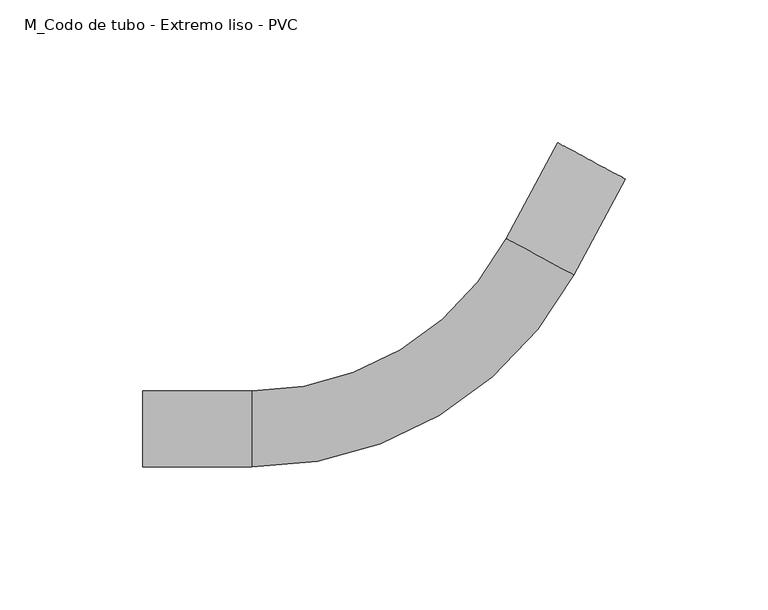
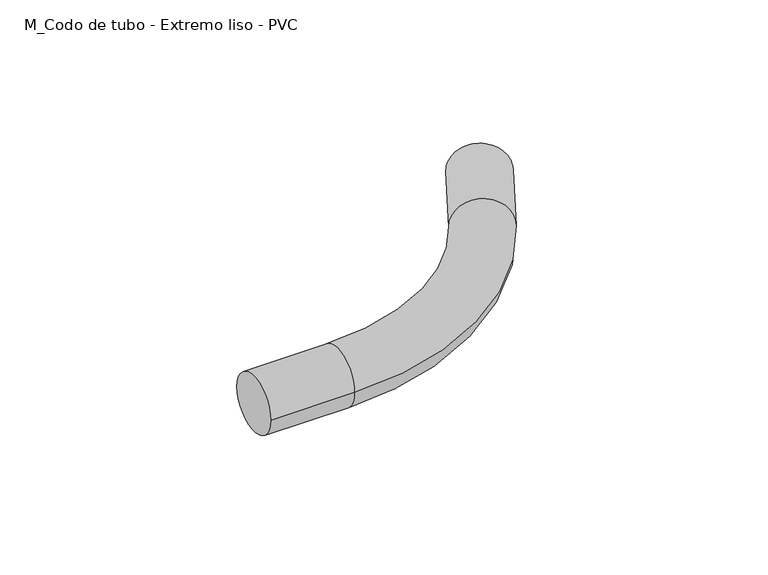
"""IFC4 building model written with IfcOpenShell, lengths in millimetres: cable carrier fitting geometry, M_Codo de tubo - Extremo liso - PVC : CODO ILUMINACION."""

from ifc_helpers import new_model, si_unit, point, frame, origin, place, context, project, spatial, circle_curve, ellipse_curve, trimmed, source, transform, mapped, element, save
from ifc_brep_helpers import plane_surface, cylinder_surface, revolved_surface, advanced_brep


def m_codo_de_tubo_extremo_liso_pvc_4da0fa4a(model_context):
    return source(origin(), model_context, "Body", "AdvancedBrep", [
        advanced_brep(
        [(-106.4955185, -13.335, 0.0), (-106.4955185, 13.335, 0.0), (-68.3955185, -13.335, 0.0), (-68.3955185, 13.335, 0.0), (20.5781406, 66.5755909, 0.0), (44.0806165, 53.9691432, 0.0), (62.0898275, 87.5441089, 0.0), (38.5873515, 100.1505566, 0.0)],
        [
            (0, 1, circle_curve(frame((-106.4955185, 0.0, 0.0), z_axis=(-1.0, 0.0, 0.0), x_axis=(0.0, 1.0, 0.0)), 13.335)),
            (1, 0, circle_curve(frame((-106.4955185, 0.0, 0.0), z_axis=(-1.0, 0.0, 0.0), x_axis=(0.0, 1.0, 0.0)), 13.335)),
            (0, 2),
            (2, 3, circle_curve(frame((-68.3955185, 0.0, 0.0), z_axis=(-1.0, 0.0, 0.0), x_axis=(0.0, 1.0, 0.0)), 13.335)),
            (3, 1),
            (3, 2, circle_curve(frame((-68.3955185, 0.0, 0.0), z_axis=(-1.0, 0.0, 0.0), x_axis=(0.0, 1.0, 0.0)), 13.335)),
            (4, 3, circle_curve(frame((-68.3955185, 114.3, 0.0), z_axis=(0.0, 0.0, -1.0), x_axis=(0.0, -1.0, 0.0)), 100.965)),
            (2, 5, circle_curve(frame((-68.3955185, 114.3, 0.0), z_axis=(0.0, 0.0, 1.0), x_axis=(0.0, -1.0, 0.0)), 127.635)),
            (5, 4, circle_curve(frame((32.3293785, 60.2723671, 0.0), z_axis=(-0.47268270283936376, -0.8812326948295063, 0.0), x_axis=(-0.8812326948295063, 0.47268270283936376, 0.0)), 13.335)),
            (4, 5, circle_curve(frame((32.3293785, 60.2723671, 0.0), z_axis=(-0.47268270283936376, -0.8812326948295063, 0.0), x_axis=(-0.8812326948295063, 0.47268270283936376, 0.0)), 13.335)),
            (6, 7, circle_curve(frame((50.3385895, 93.8473327, 0.0), z_axis=(0.47268270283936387, 0.8812326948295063, 0.0), x_axis=(-0.8812326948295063, 0.47268270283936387, 0.0)), 13.335)),
            (7, 6, circle_curve(frame((50.3385895, 93.8473327, 0.0), z_axis=(0.47268270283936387, 0.8812326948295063, 0.0), x_axis=(-0.8812326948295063, 0.47268270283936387, 0.0)), 13.335)),
            (5, 6),
            (7, 4),
        ],
        [
            plane_surface(frame((-106.4955185, 0.0, 0.0), z_axis=(-1.0, 0.0, 0.0), x_axis=(0.0, 0.0, 1.0))),
            cylinder_surface(frame((-106.4955185, 0.0, 0.0), z_axis=(-1.0, 0.0, 0.0), x_axis=(0.0, 1.0, 0.0)), 13.335),
            revolved_surface(trimmed(ellipse_curve(frame((-68.3955185, 0.0, 0.0), z_axis=(-1.0, 0.0, 0.0), x_axis=(0.0, 1.0, 0.0)), 13.335, 13.335), [point((-68.3955185, -13.335, 0.0))], [point((-68.3955185, 13.335, 0.0))], True, "CARTESIAN"), (-68.3955185, 114.3, 0.0), (0.0, 0.0, 1.0)),
            revolved_surface(trimmed(ellipse_curve(frame((-68.3955185, 0.0, 0.0), z_axis=(-1.0, 0.0, 0.0), x_axis=(0.0, 1.0, 0.0)), 13.335, 13.335), [point((-68.3955185, 13.335, 0.0))], [point((-68.3955185, -13.335, 0.0))], True, "CARTESIAN"), (-68.3955185, 114.3, 0.0), (0.0, 0.0, 1.0)),
            plane_surface(frame((50.3385895, 93.8473327, 0.0), z_axis=(0.47268270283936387, 0.8812326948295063, 0.0), x_axis=(0.0, 0.0, 1.0))),
            cylinder_surface(frame((32.3293785, 60.2723671, 0.0), z_axis=(-0.47268270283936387, -0.8812326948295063, 0.0), x_axis=(-0.8812326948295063, 0.47268270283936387, 0.0)), 13.335),
        ],
        [
            (0, [[1, 2]]),
            (1, [[-1, 3, 4, 5]]),
            (1, [[-2, -5, 6, -3]]),
            (2, [[7, -4, 8, 9]]),
            (3, [[-8, -6, -7, 10]]),
            (4, [[11, 12]]),
            (5, [[-9, 13, -12, 14]]),
            (5, [[-10, -14, -11, -13]]),
        ],
    ),
    ])


if __name__ == "__main__":
    model = new_model("IFC4")
    model_context = context("Model", 3, world=origin())
    ifc_project = project(units=[si_unit("LENGTHUNIT", "METRE", prefix="MILLI")], contexts=[model_context])
    site = spatial("IfcSite", under=ifc_project)
    building = spatial("IfcBuilding", under=site)
    placement = place(None, origin())
    m_codo_de_tubo_extremo_liso_pvc_shape = m_codo_de_tubo_extremo_liso_pvc_4da0fa4a(model_context)
    element("IfcCableCarrierFitting", 1, ObjectType="M_Codo de tubo - Extremo liso - PVC : CODO ILUMINACION", at=placement, inside=building, context=model_context, shape_type="MappedRepresentation", body=[
        mapped(m_codo_de_tubo_extremo_liso_pvc_shape, transform((0.0, 0.0, 0.0), x_axis=(1.0, 0.0, 0.0), y_axis=(0.0, 1.0, 0.0), z_axis=(0.0, 0.0, 1.0))),
    ])
    save(model, "model.ifc")
